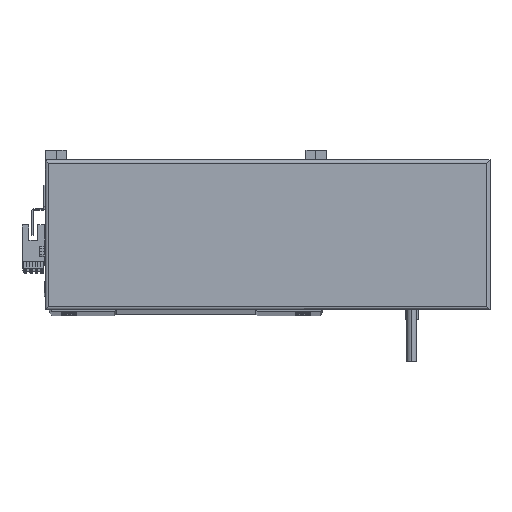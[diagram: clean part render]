
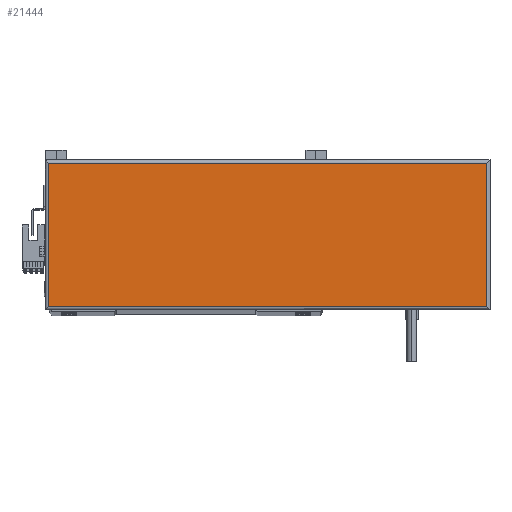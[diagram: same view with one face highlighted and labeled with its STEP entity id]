
A CAD part, top view. The second image highlights one B-rep face of the part: STEP entity #21444.
In plain terms, the highlighted planar face has unit normal (0, 0, 1).
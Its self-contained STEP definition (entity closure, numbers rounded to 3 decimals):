
#1093 = EDGE_CURVE ( 'NONE', #49588, #40745, #3362, .T. ) ;
#1525 = ORIENTED_EDGE ( 'NONE', *, *, #49182, .T. ) ;
#2489 = CARTESIAN_POINT ( 'NONE',  ( 267., 2., 44.8 ) ) ;
#2682 = DIRECTION ( 'NONE',  ( 1., 0., 0. ) ) ;
#3362 = LINE ( 'NONE', #16564, #38648 ) ;
#4134 = VECTOR ( 'NONE', #33936, 1000. ) ;
#6398 = PLANE ( 'NONE',  #8517 ) ;
#8309 = DIRECTION ( 'NONE',  ( 0., -1., 0. ) ) ;
#8517 = AXIS2_PLACEMENT_3D ( 'NONE', #41156, #25281, #2682 ) ;
#13636 = CARTESIAN_POINT ( 'NONE',  ( 2., 2., 44.8 ) ) ;
#15888 = VERTEX_POINT ( 'NONE', #34236 ) ;
#16564 = CARTESIAN_POINT ( 'NONE',  ( 2., 0., 44.8 ) ) ;
#21444 = ADVANCED_FACE ( 'NONE', ( #49651 ), #6398, .T. ) ;
#24247 = DIRECTION ( 'NONE',  ( 0., 1., 0. ) ) ;
#24437 = LINE ( 'NONE', #32726, #39064 ) ;
#25281 = DIRECTION ( 'NONE',  ( 0., 0., 1. ) ) ;
#30987 = VERTEX_POINT ( 'NONE', #35980 ) ;
#32726 = CARTESIAN_POINT ( 'NONE',  ( 0., 88., 44.8 ) ) ;
#33936 = DIRECTION ( 'NONE',  ( 1., 0., 0. ) ) ;
#34236 = CARTESIAN_POINT ( 'NONE',  ( 265., 2., 44.8 ) ) ;
#35980 = CARTESIAN_POINT ( 'NONE',  ( 265., 88., 44.8 ) ) ;
#37670 = VECTOR ( 'NONE', #24247, 1000. ) ;
#38021 = EDGE_CURVE ( 'NONE', #30987, #49588, #24437, .T. ) ;
#38648 = VECTOR ( 'NONE', #8309, 1000. ) ;
#39064 = VECTOR ( 'NONE', #40413, 1000. ) ;
#40413 = DIRECTION ( 'NONE',  ( -1., 0., 0. ) ) ;
#40600 = ORIENTED_EDGE ( 'NONE', *, *, #1093, .T. ) ;
#40745 = VERTEX_POINT ( 'NONE', #13636 ) ;
#41156 = CARTESIAN_POINT ( 'NONE',  ( 133.5, 45., 44.8 ) ) ;
#42472 = EDGE_CURVE ( 'NONE', #40745, #15888, #46762, .T. ) ;
#42477 = CARTESIAN_POINT ( 'NONE',  ( 2., 88., 44.8 ) ) ;
#43076 = ORIENTED_EDGE ( 'NONE', *, *, #38021, .T. ) ;
#43492 = ORIENTED_EDGE ( 'NONE', *, *, #42472, .T. ) ;
#46762 = LINE ( 'NONE', #2489, #4134 ) ;
#47948 = CARTESIAN_POINT ( 'NONE',  ( 265., 90., 44.8 ) ) ;
#48070 = LINE ( 'NONE', #47948, #37670 ) ;
#49182 = EDGE_CURVE ( 'NONE', #15888, #30987, #48070, .T. ) ;
#49588 = VERTEX_POINT ( 'NONE', #42477 ) ;
#49651 = FACE_OUTER_BOUND ( 'NONE', #50506, .T. ) ;
#50506 = EDGE_LOOP ( 'NONE', ( #1525, #43076, #40600, #43492 ) ) ;
